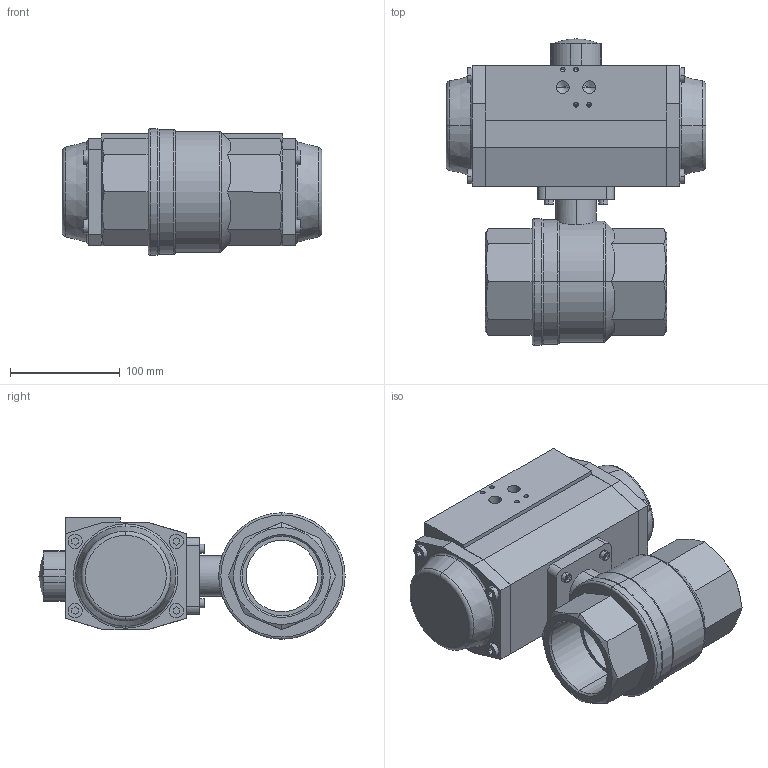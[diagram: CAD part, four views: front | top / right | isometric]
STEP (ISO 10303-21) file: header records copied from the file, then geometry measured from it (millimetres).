
FILE_DESCRIPTION (( 'STEP AP214' ), '1' );
FILE_NAME ('A25-DN65-G2 1_2+AP3.5.step', '2011-03-03T09:49:48', ( '' ), ( '' ), 'SwSTEP 2.0', 'SolidWorks 2011', '' );
FILE_SCHEMA (( 'AUTOMOTIVE_DESIGN' ));
Length unit declared in the file: millimetre
Products named in the file (4): DIN 912 M5 x 20 --- 20N_DIN 912 M5 x 20 --- 20N; AP3.5_Default<As Machined>; Ballvalve A25-DN65 G2 1_2; A25-DN65-G2 1_2+AP3.5
Assembly tree (6 placements, depth 2):
  A25-DN65-G2 1_2+AP3.5
    DIN 912 M5 x 20 --- 20N_DIN 912 M5 x 20 --- 20N  x4
    AP3.5_Default<As Machined>
    Ballvalve A25-DN65 G2 1_2
Bounding box: 236 x 278.49 x 115 mm (x, y, z)
Volume: 3069661.4 mm3; surface area: 244942.4 mm2
Topology: 9 solids, 9 shells, 423 faces, 998 edges, 609 vertices
Faces by surface type: plane 229, cylinder 101, cone 58, torus 33, sphere 2
Entity records: 11067 total; most frequent: CARTESIAN_POINT 2031, DIRECTION 1708, ORIENTED_EDGE 1588, EDGE_CURVE 794, AXIS2_PLACEMENT_3D 601, VERTEX_POINT 510, LINE 506, VECTOR 506
